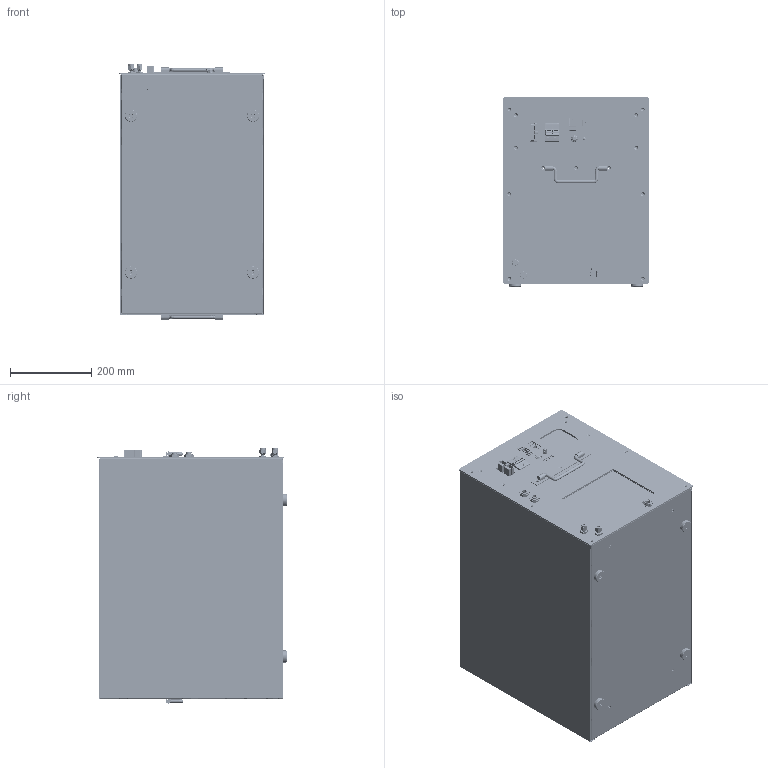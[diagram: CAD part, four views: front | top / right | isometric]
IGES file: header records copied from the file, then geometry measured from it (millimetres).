
Global section: file name: ELE21-DRW-A3100-REV01; native system: Autodesk Inventor 2021; preprocessor: unknown; author: L. Giobbi; date: 20210305.112433; units: millimetre
Bounding box: 358 x 464.6 x 627.22 mm (x, y, z)
Volume: 2789652 mm3; surface area: 3553569.4 mm2
Topology: 157 solids, 160 shells, 10337 faces, 27648 edges, 18069 vertices
Faces by surface type: bspline 10337
